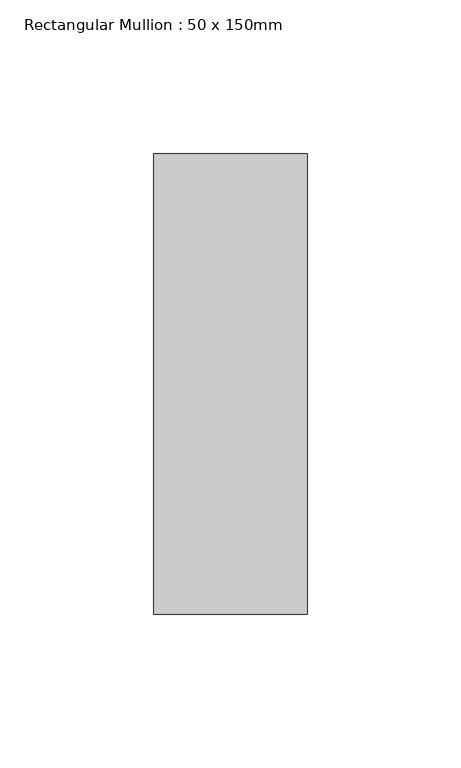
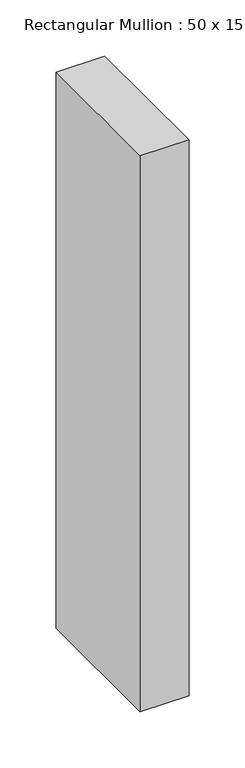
"""IFC4 building model written with IfcOpenShell, lengths in millimetres: member geometry, Rectangular Mullion : 50 x 150mm."""

from ifc_helpers import new_model, si_unit, frame, origin, place, context, project, spatial, polyline, outline, extrude, source, transform, mapped, element, save


def rectangular_mullion_50_x_150mm_27f82533(model_context):
    return source(origin(), model_context, "Body", "SweptSolid", [
        extrude(outline(polyline([(0.0, 75.0), (0.0, -75.0), (-50.0, -75.0), (-50.0, 75.0), (0.0, 75.0)])), frame((0.0, 0.0, -603.9999999), z_axis=(0.0, 0.0, 1.0), x_axis=(1.0, 0.0, 0.0)), (0.0, 0.0, 1.0), 603.9999999),
    ])


if __name__ == "__main__":
    model = new_model("IFC4")
    model_context = context("Model", 3, world=origin())
    ifc_project = project(units=[si_unit("LENGTHUNIT", "METRE", prefix="MILLI")], contexts=[model_context])
    site = spatial("IfcSite", under=ifc_project)
    building = spatial("IfcBuilding", under=site)
    placement = place(None, origin())
    rectangular_mullion_50_x_150mm_shape = rectangular_mullion_50_x_150mm_27f82533(model_context)
    element("IfcMember", 1, ObjectType="Rectangular Mullion : 50 x 150mm", at=placement, inside=building, context=model_context, shape_type="MappedRepresentation", body=[
        mapped(rectangular_mullion_50_x_150mm_shape, transform((0.0, 0.0, 0.0), x_axis=(1.0, 0.0, 0.0), y_axis=(0.0, 1.0, 0.0), z_axis=(0.0, 0.0, 1.0))),
    ])
    save(model, "model.ifc")
